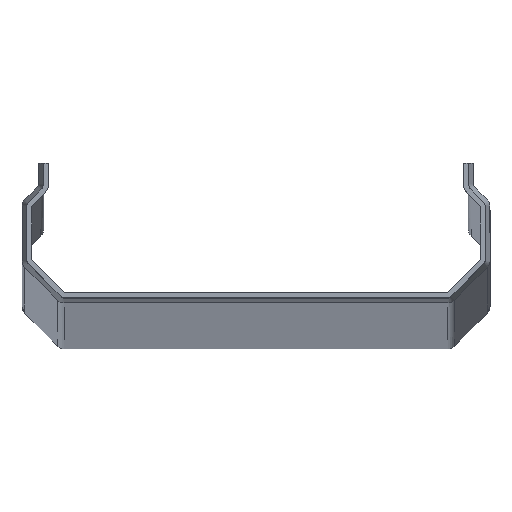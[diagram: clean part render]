
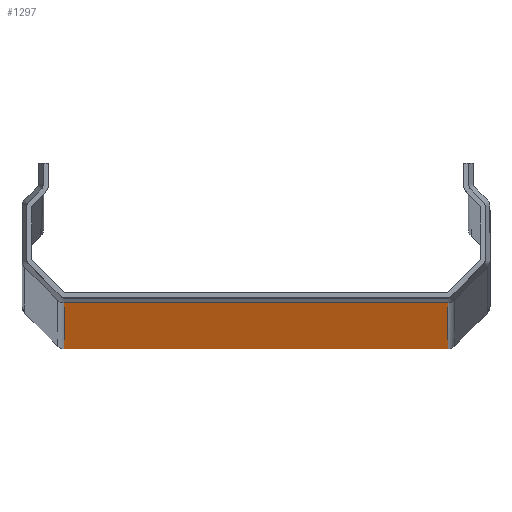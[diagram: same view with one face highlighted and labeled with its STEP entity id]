
A CAD part, top view. The second image highlights one B-rep face of the part: STEP entity #1297.
In plain terms, the highlighted planar face has unit normal (0, -1, 0).
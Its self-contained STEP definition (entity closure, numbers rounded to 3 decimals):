
#37 = LINE ( 'NONE', #2163, #4643 ) ;
#55 = CARTESIAN_POINT ( 'NONE',  ( 0., 0., 0. ) ) ;
#85 = DIRECTION ( 'NONE',  ( 0., 0., -1. ) ) ;
#98 = VECTOR ( 'NONE', #4842, 1000. ) ;
#805 = EDGE_CURVE ( 'NONE', #4758, #4432, #2455, .T. ) ;
#1198 = DIRECTION ( 'NONE',  ( 1., 0., 0. ) ) ;
#1248 = CARTESIAN_POINT ( 'NONE',  ( 21.715, 0., 2982. ) ) ;
#1297 = ADVANCED_FACE ( 'NONE', ( #5056 ), #2142, .F. ) ;
#1456 = EDGE_CURVE ( 'NONE', #4781, #3367, #2302, .T. ) ;
#2120 = DIRECTION ( 'NONE',  ( 0., 1., 0. ) ) ;
#2142 = PLANE ( 'NONE',  #3453 ) ;
#2163 = CARTESIAN_POINT ( 'NONE',  ( -21.715, 0., 2982. ) ) ;
#2225 = ORIENTED_EDGE ( 'NONE', *, *, #4192, .F. ) ;
#2233 = VECTOR ( 'NONE', #2545, 1000. ) ;
#2302 = LINE ( 'NONE', #2806, #98 ) ;
#2455 = LINE ( 'NONE', #55, #3978 ) ;
#2542 = ORIENTED_EDGE ( 'NONE', *, *, #4234, .T. ) ;
#2545 = DIRECTION ( 'NONE',  ( 0., 0., -1. ) ) ;
#2725 = CARTESIAN_POINT ( 'NONE',  ( 21.715, 0., 2982. ) ) ;
#2806 = CARTESIAN_POINT ( 'NONE',  ( 0., 0., 2982. ) ) ;
#2993 = LINE ( 'NONE', #1248, #2233 ) ;
#2997 = DIRECTION ( 'NONE',  ( 0., 0., 1. ) ) ;
#3250 = CARTESIAN_POINT ( 'NONE',  ( -21.715, 0., 2982. ) ) ;
#3367 = VERTEX_POINT ( 'NONE', #2725 ) ;
#3453 = AXIS2_PLACEMENT_3D ( 'NONE', #4519, #2120, #2997 ) ;
#3498 = ORIENTED_EDGE ( 'NONE', *, *, #805, .T. ) ;
#3978 = VECTOR ( 'NONE', #1198, 1000. ) ;
#4072 = EDGE_LOOP ( 'NONE', ( #3498, #2225, #4449, #2542 ) ) ;
#4192 = EDGE_CURVE ( 'NONE', #3367, #4432, #2993, .T. ) ;
#4234 = EDGE_CURVE ( 'NONE', #4781, #4758, #37, .T. ) ;
#4432 = VERTEX_POINT ( 'NONE', #5013 ) ;
#4449 = ORIENTED_EDGE ( 'NONE', *, *, #1456, .F. ) ;
#4519 = CARTESIAN_POINT ( 'NONE',  ( 0., 0., 2982. ) ) ;
#4643 = VECTOR ( 'NONE', #85, 1000. ) ;
#4758 = VERTEX_POINT ( 'NONE', #4861 ) ;
#4781 = VERTEX_POINT ( 'NONE', #3250 ) ;
#4842 = DIRECTION ( 'NONE',  ( 1., 0., 0. ) ) ;
#4861 = CARTESIAN_POINT ( 'NONE',  ( -21.715, 0., 0. ) ) ;
#5013 = CARTESIAN_POINT ( 'NONE',  ( 21.715, 0., 0. ) ) ;
#5056 = FACE_OUTER_BOUND ( 'NONE', #4072, .T. ) ;
